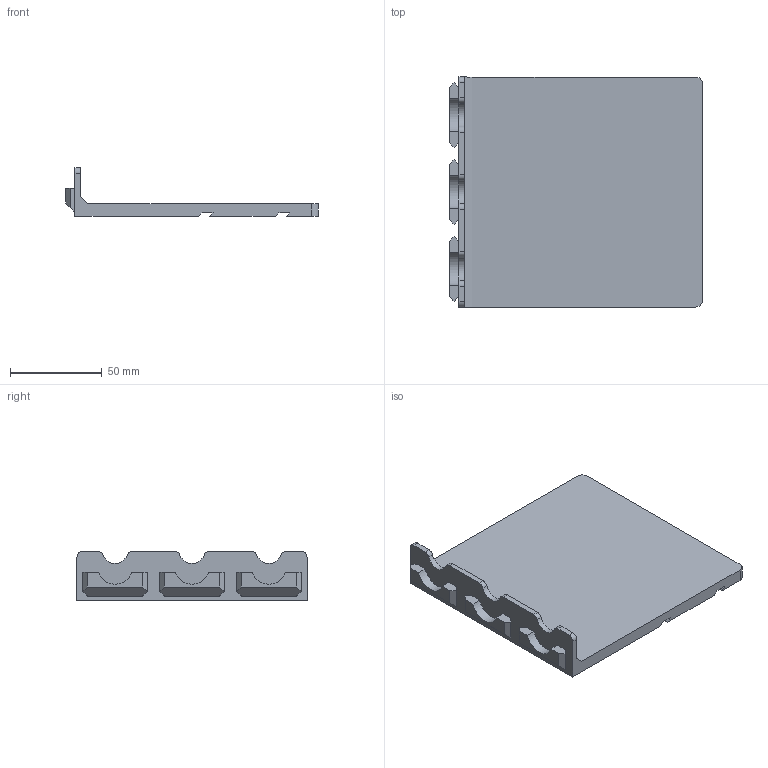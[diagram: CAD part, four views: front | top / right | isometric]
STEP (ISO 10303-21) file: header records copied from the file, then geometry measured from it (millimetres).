
FILE_DESCRIPTION(/* description */ ('','CAx-IF Rec.Pracs.---Representation and Presentation of Product Manufacturing Information (PMI)---4.0---2014-10-13'),/* implementation_level */ '2;1');
FILE_NAME(/* name */ 'Goews 3x HangerFlat Shelf 3x3 Base.step',/* time_stamp */ '2024-11-29T16:33:37-05:00',/* author */ (''),/* organization */ (''),/* preprocessor_version */ 'ST-DEVELOPER v20',/* originating_system */ 'Autodesk Translation Framework v13.20.0.188',/* authorisation */ '');
FILE_SCHEMA (('AP242_MANAGED_MODEL_BASED_3D_ENGINEERING_MIM_LF { 1 0 10303 442 1 1 4 }'));
Length unit declared in the file: millimetre
Products named in the file (1): Goews 3x Hanger Shelf 2x
Bounding box: 138.15 x 125.6 x 26.72 mm (x, y, z)
Volume: 125683.8 mm3; surface area: 44075 mm2
Topology: 1 solids, 1 shells, 69 faces, 186 edges, 122 vertices
Faces by surface type: plane 53, cylinder 16
Entity records: 2177 total; most frequent: CARTESIAN_POINT 378, ORIENTED_EDGE 372, DIRECTION 358, EDGE_CURVE 186, LINE 154, VECTOR 154, VERTEX_POINT 122, AXIS2_PLACEMENT_3D 102
